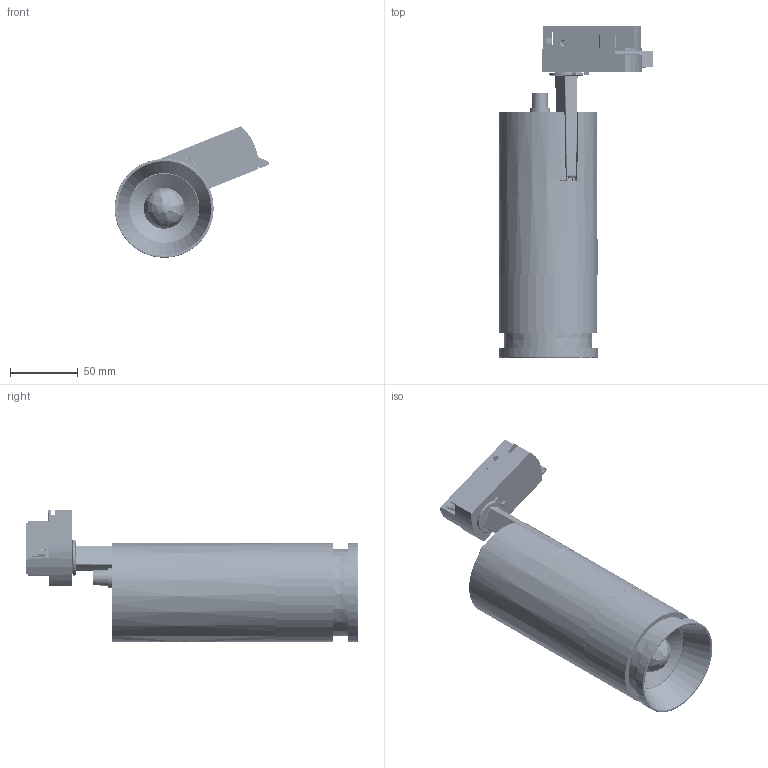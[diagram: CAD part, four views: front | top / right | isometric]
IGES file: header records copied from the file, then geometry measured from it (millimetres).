
Start section: SolidWorks IGES file using analytic representation for surfaces
Global section: file name: L:\Tecnico_PMT\R&D\NEMOstudio\CAPRI\CAPRI DIM ON BOARD\3D\CAPRI DOB.IGS; native system: SolidWorks 2016; preprocessor: SolidWorks 2016; author: MartinaCornero; date: 220517.100020; units: millimetre
Bounding box: 113.8 x 244.41 x 96.82 mm (x, y, z)
Surface area: 217136.4 mm2 (no closed solid volume)
Topology: 0 solids, 0 shells, 9028 faces, 63954 edges, 63860 vertices
Faces by surface type: bspline 8288, revolution 740
